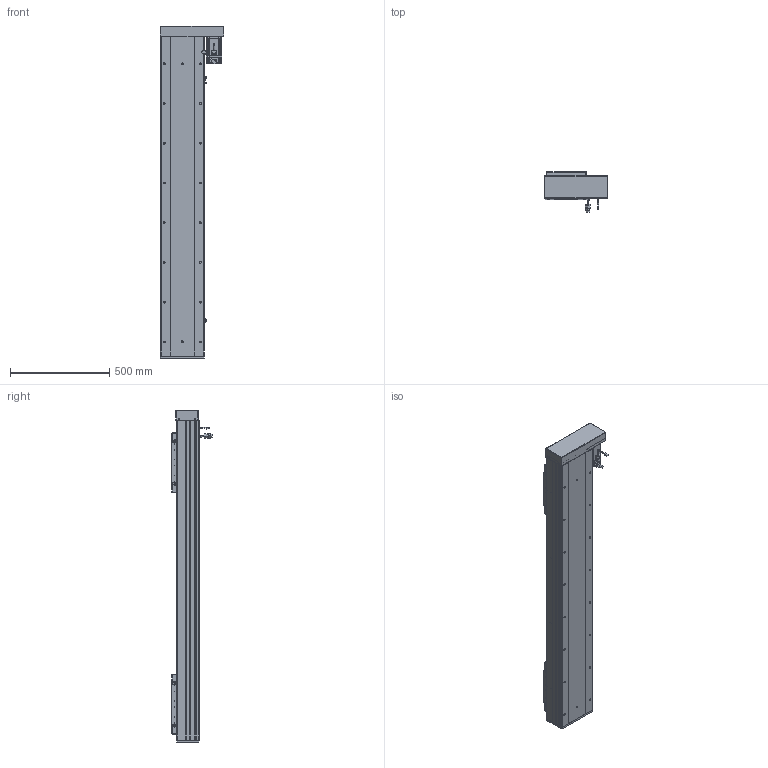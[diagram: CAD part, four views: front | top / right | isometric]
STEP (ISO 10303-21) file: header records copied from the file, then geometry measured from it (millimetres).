
FILE_DESCRIPTION (( 'STEP AP203' ), '1' );
FILE_NAME ('RY220F-L2525-300-RK.SLDASM_1200.step', '2022-07-04T01:35:30', ( '' ), ( '' ), 'SwSTEP 2.0', 'SolidWorks 2016', '' );
FILE_SCHEMA (( 'CONFIG_CONTROL_DESIGN' ));
Length unit declared in the file: millimetre
Products named in the file (15): RY220F-672覜茼んえ; 覜茼ん672; RY220F綴裔啣; RY220F-L2525-300-RK.SLDASM_1200; RY220F-詩湍揤踡輸; RY220左右折电机安装板; 滅袉蝶18-24; RY220F-蛌殏奻裔啣-300_1200; 怢湛750W_ECMA-CX0807ES; RY220酘衵殏萇儂欶; 侐源滅袉蝶; RY220F-滅鳥奻裔; RY220F蛌殏菁釱-300_1200; RY220F臏賑釱25-32佪裝; RY220F-祥凄詩湍-蛌殏-300_1200
Assembly tree (24 placements, depth 2):
  RY220F-L2525-300-RK.SLDASM_1200
    RY220F蛌殏菁釱-300_1200
    RY220F-蛌殏奻裔啣-300_1200  x2
    怢湛750W_ECMA-CX0807ES
    RY220F臏賑釱25-32佪裝  x2
    RY220F-滅鳥奻裔  x2
    滅袉蝶18-24  x3
    RY220F綴裔啣
    RY220F-祥凄詩湍-蛌殏-300_1200
    RY220F-詩湍揤踡輸  x2
    覜茼ん672  x3
    RY220F-672覜茼んえ  x2
    RY220左右折电机安装板
    RY220酘衵殏萇儂欶
    侐源滅袉蝶  x2
Bounding box: 317.5 x 205.27 x 1671 mm (x, y, z)
Volume: 15773925.3 mm3; surface area: 4138710.8 mm2
Topology: 25 solids, 25 shells, 2764 faces, 7520 edges, 4656 vertices
Faces by surface type: cylinder 1246, plane 1044, cone 403, bspline 45, sphere 16, torus 10
Entity records: 68584 total; most frequent: CARTESIAN_POINT 18629, ORIENTED_EDGE 10094, DIRECTION 9812, EDGE_CURVE 5047, AXIS2_PLACEMENT_3D 3490, VERTEX_POINT 3272, VECTOR 2832, LINE 2832
